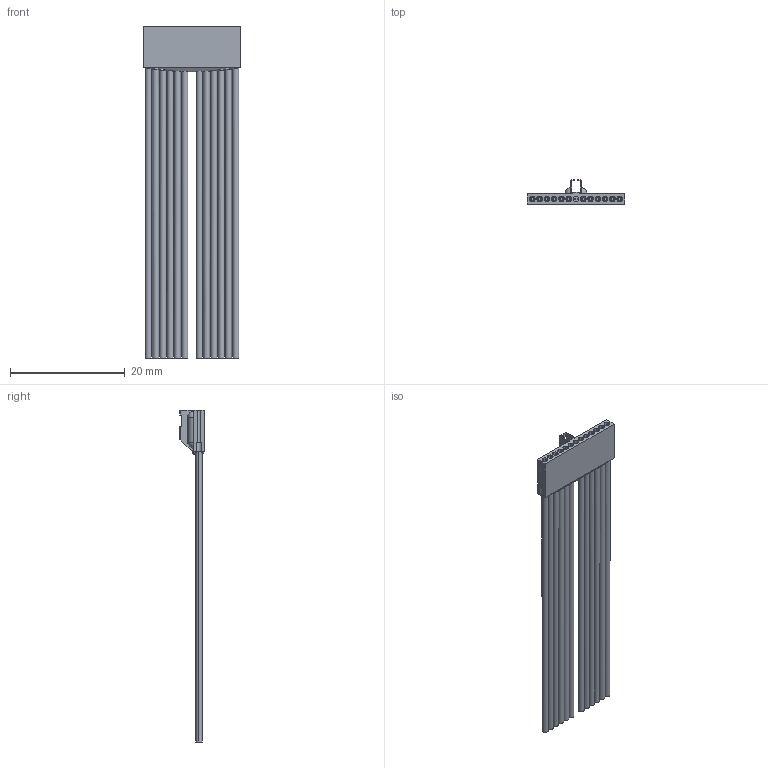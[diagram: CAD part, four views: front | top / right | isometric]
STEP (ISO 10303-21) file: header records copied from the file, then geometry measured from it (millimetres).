
FILE_DESCRIPTION (( 'STEP AP214' ), '1' );
FILE_NAME ('A24000-012.STEP', '2015-11-04T12:49:46', ( '' ), ( '' ), 'SwSTEP 2.0', 'SolidWorks 2015', '' );
FILE_SCHEMA (( 'AUTOMOTIVE_DESIGN' ));
Length unit declared in the file: inch
Products named in the file (1): A24000-012
Bounding box: 17.02 x 4.34 x 57.94 mm (x, y, z)
Volume: 781 mm3; surface area: 2938.4 mm2
Topology: 1 solids, 13 shells, 628 faces, 1625 edges, 1039 vertices
Faces by surface type: plane 316, cylinder 204, cone 72, bspline 32, sphere 4
Entity records: 20488 total; most frequent: CARTESIAN_POINT 5460, ORIENTED_EDGE 3234, DIRECTION 3045, EDGE_CURVE 1617, AXIS2_PLACEMENT_3D 1165, VERTEX_POINT 1039, LINE 715, VECTOR 715
